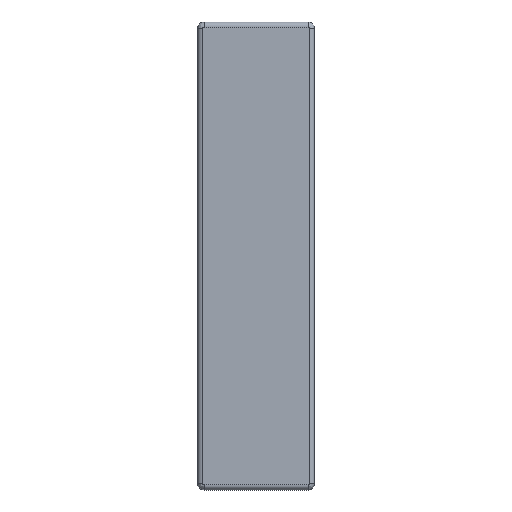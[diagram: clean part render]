
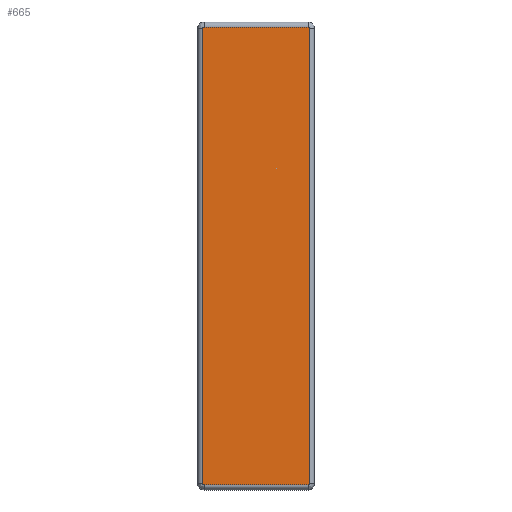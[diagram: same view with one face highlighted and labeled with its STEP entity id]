
A CAD part, front view. The second image highlights one B-rep face of the part: STEP entity #665.
In plain terms, the highlighted planar face has unit normal (0, -1, 0).
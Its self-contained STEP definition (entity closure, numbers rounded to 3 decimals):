
#32=PLANE('',#778);
#65=LINE('',#1192,#97);
#66=LINE('',#1196,#98);
#67=LINE('',#1200,#99);
#68=LINE('',#1203,#100);
#97=VECTOR('',#969,1000.);
#98=VECTOR('',#972,1000.);
#99=VECTOR('',#975,1000.);
#100=VECTOR('',#978,1000.);
#152=FACE_OUTER_BOUND('',#206,.T.);
#206=EDGE_LOOP('',(#550,#551,#552,#553,#554,#555,#556,#557));
#286=CIRCLE('',#779,0.5);
#287=CIRCLE('',#780,0.5);
#288=CIRCLE('',#781,0.5);
#289=CIRCLE('',#782,0.5);
#345=VERTEX_POINT('',#1188);
#346=VERTEX_POINT('',#1189);
#347=VERTEX_POINT('',#1191);
#348=VERTEX_POINT('',#1193);
#349=VERTEX_POINT('',#1195);
#350=VERTEX_POINT('',#1197);
#351=VERTEX_POINT('',#1199);
#352=VERTEX_POINT('',#1201);
#422=EDGE_CURVE('',#345,#346,#286,.T.);
#423=EDGE_CURVE('',#345,#347,#65,.T.);
#424=EDGE_CURVE('',#348,#347,#287,.T.);
#425=EDGE_CURVE('',#348,#349,#66,.T.);
#426=EDGE_CURVE('',#350,#349,#288,.T.);
#427=EDGE_CURVE('',#350,#351,#67,.T.);
#428=EDGE_CURVE('',#352,#351,#289,.T.);
#429=EDGE_CURVE('',#352,#346,#68,.T.);
#550=ORIENTED_EDGE('',*,*,#422,.F.);
#551=ORIENTED_EDGE('',*,*,#423,.T.);
#552=ORIENTED_EDGE('',*,*,#424,.F.);
#553=ORIENTED_EDGE('',*,*,#425,.T.);
#554=ORIENTED_EDGE('',*,*,#426,.F.);
#555=ORIENTED_EDGE('',*,*,#427,.T.);
#556=ORIENTED_EDGE('',*,*,#428,.F.);
#557=ORIENTED_EDGE('',*,*,#429,.T.);
#665=ADVANCED_FACE('',(#152),#32,.T.);
#778=AXIS2_PLACEMENT_3D('',#1187,#965,#966);
#779=AXIS2_PLACEMENT_3D('',#1190,#967,#968);
#780=AXIS2_PLACEMENT_3D('',#1194,#970,#971);
#781=AXIS2_PLACEMENT_3D('',#1198,#973,#974);
#782=AXIS2_PLACEMENT_3D('',#1202,#976,#977);
#965=DIRECTION('center_axis',(0.,-1.,0.));
#966=DIRECTION('ref_axis',(0.,0.,-1.));
#967=DIRECTION('center_axis',(0.,1.,0.));
#968=DIRECTION('ref_axis',(0.,0.,-1.));
#969=DIRECTION('',(-1.,0.,0.));
#970=DIRECTION('center_axis',(0.,1.,0.));
#971=DIRECTION('ref_axis',(0.,0.,-1.));
#972=DIRECTION('',(0.,0.,-1.));
#973=DIRECTION('center_axis',(0.,1.,0.));
#974=DIRECTION('ref_axis',(0.,0.,-1.));
#975=DIRECTION('',(1.,0.,0.));
#976=DIRECTION('center_axis',(0.,1.,0.));
#977=DIRECTION('ref_axis',(0.,0.,-1.));
#978=DIRECTION('',(0.,0.,1.));
#1187=CARTESIAN_POINT('Origin',(-22.5,0.,-90.));
#1188=CARTESIAN_POINT('',(20.,0.,88.));
#1189=CARTESIAN_POINT('',(20.5,0.,87.5));
#1190=CARTESIAN_POINT('Origin',(20.,0.,87.5));
#1191=CARTESIAN_POINT('',(-20.,0.,88.));
#1192=CARTESIAN_POINT('',(-22.5,0.,88.));
#1193=CARTESIAN_POINT('',(-20.5,0.,87.5));
#1194=CARTESIAN_POINT('Origin',(-20.,0.,87.5));
#1195=CARTESIAN_POINT('',(-20.5,0.,-87.5));
#1196=CARTESIAN_POINT('',(-20.5,0.,-90.));
#1197=CARTESIAN_POINT('',(-20.,0.,-88.));
#1198=CARTESIAN_POINT('Origin',(-20.,0.,-87.5));
#1199=CARTESIAN_POINT('',(20.,0.,-88.));
#1200=CARTESIAN_POINT('',(22.5,0.,-88.));
#1201=CARTESIAN_POINT('',(20.5,0.,-87.5));
#1202=CARTESIAN_POINT('Origin',(20.,0.,-87.5));
#1203=CARTESIAN_POINT('',(20.5,0.,90.));
